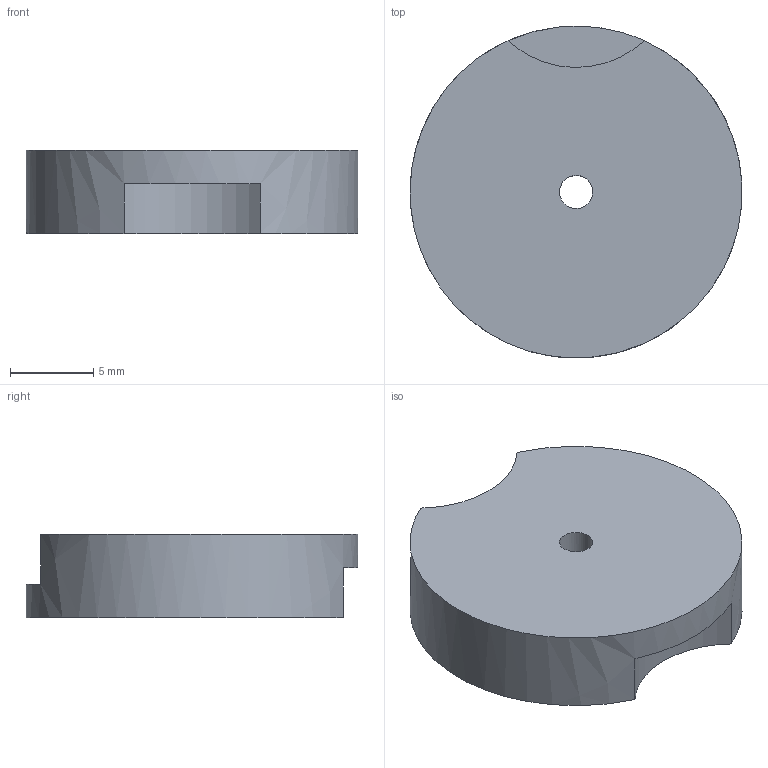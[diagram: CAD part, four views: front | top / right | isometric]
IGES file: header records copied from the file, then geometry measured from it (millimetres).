
Start section: C
Global section: file name: MOB2005.igs; native system: By Siemens PLM Incorporated; preprocessor: XPlus GENERIC/IGES 18.0.17; author: Author; organization: Title; date: 20240724.111554; units: millimetre
Bounding box: 19.99 x 19.99 x 5 mm (x, y, z)
Volume: 1470.6 mm3; surface area: 982.1 mm2
Topology: 1 solids, 1 shells, 237 faces, 621 edges, 414 vertices
Faces by surface type: bspline 237
